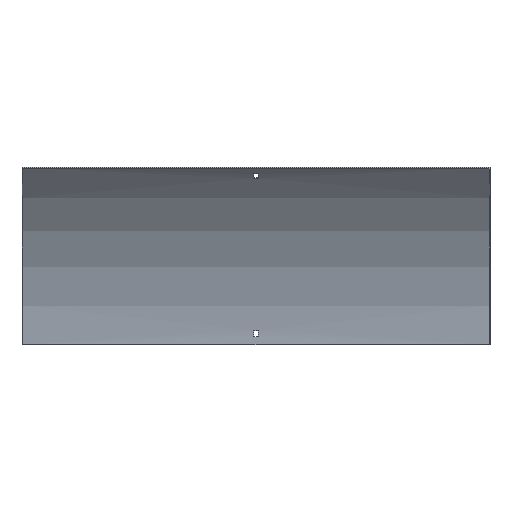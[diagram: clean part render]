
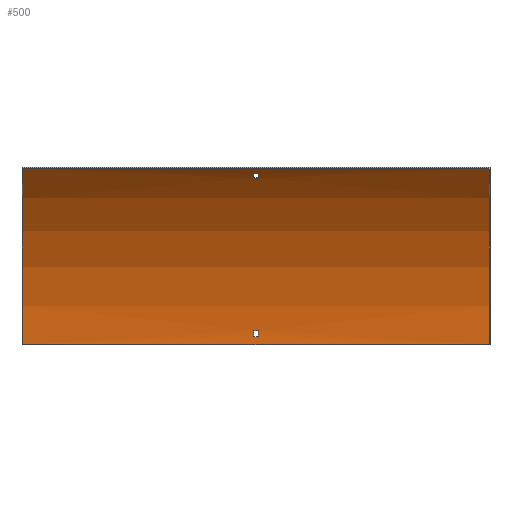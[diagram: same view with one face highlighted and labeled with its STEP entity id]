
A CAD part, front view. The second image highlights one B-rep face of the part: STEP entity #500.
In plain terms, the highlighted cylindrical face has radius 375 mm (diameter 750 mm), a partial arc.
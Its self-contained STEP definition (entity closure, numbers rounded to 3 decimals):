
#2 = AXIS2_PLACEMENT_3D ( 'NONE', #170, #581, #180 ) ;
#11 = DIRECTION ( 'NONE',  ( 0., 0., 1. ) ) ;
#27 = LINE ( 'NONE', #227, #446 ) ;
#28 = AXIS2_PLACEMENT_3D ( 'NONE', #434, #253, #50 ) ;
#33 = LINE ( 'NONE', #592, #447 ) ;
#35 = DIRECTION ( 'NONE',  ( 1., 0., 0. ) ) ;
#45 = CARTESIAN_POINT ( 'NONE',  ( -350., -1.5, 0. ) ) ;
#50 = DIRECTION ( 'NONE',  ( 0., 0., -1. ) ) ;
#51 = FACE_BOUND ( 'NONE', #429, .T. ) ;
#59 = VERTEX_POINT ( 'NONE', #45 ) ;
#74 = CARTESIAN_POINT ( 'NONE',  ( -3.25, -2.088, 21. ) ) ;
#75 = CIRCLE ( 'NONE', #353, 375. ) ;
#97 = CARTESIAN_POINT ( 'NONE',  ( 351.5, -96.902, 249.9 ) ) ;
#105 = FACE_OUTER_BOUND ( 'NONE', #573, .T. ) ;
#106 = AXIS2_PLACEMENT_3D ( 'NONE', #123, #313, #495 ) ;
#112 = EDGE_CURVE ( 'NONE', #179, #607, #183, .T. ) ;
#115 = VECTOR ( 'NONE', #125, 1000. ) ;
#116 = CARTESIAN_POINT ( 'NONE',  ( 350., -111.335, 265.165 ) ) ;
#122 = DIRECTION ( 'NONE',  ( 0., 0., -1. ) ) ;
#123 = CARTESIAN_POINT ( 'NONE',  ( 3.25, -376.5, 0. ) ) ;
#125 = DIRECTION ( 'NONE',  ( -1., 0., 0. ) ) ;
#146 = ORIENTED_EDGE ( 'NONE', *, *, #443, .T. ) ;
#151 = CIRCLE ( 'NONE', #2, 375. ) ;
#156 = VERTEX_POINT ( 'NONE', #480 ) ;
#157 = CARTESIAN_POINT ( 'NONE',  ( 350., -1.5, 0. ) ) ;
#159 = ORIENTED_EDGE ( 'NONE', *, *, #473, .T. ) ;
#170 = CARTESIAN_POINT ( 'NONE',  ( -3.25, -376.5, 0. ) ) ;
#172 = EDGE_CURVE ( 'NONE', #420, #59, #571, .T. ) ;
#173 = CARTESIAN_POINT ( 'NONE',  ( 351.5, -102.985, 256.544 ) ) ;
#178 = DIRECTION ( 'NONE',  ( 0., 0., -1. ) ) ;
#179 = VERTEX_POINT ( 'NONE', #490 ) ;
#180 = DIRECTION ( 'NONE',  ( 0., 0., 1. ) ) ;
#183 = CIRCLE ( 'NONE', #28, 375. ) ;
#185 = VERTEX_POINT ( 'NONE', #74 ) ;
#187 = DIRECTION ( 'NONE',  ( -1., 0., 0. ) ) ;
#196 = VERTEX_POINT ( 'NONE', #116 ) ;
#198 = EDGE_CURVE ( 'NONE', #185, #238, #151, .T. ) ;
#219 = VECTOR ( 'NONE', #585, 1000. ) ;
#226 = EDGE_CURVE ( 'NONE', #238, #156, #33, .T. ) ;
#227 = CARTESIAN_POINT ( 'NONE',  ( 351.5, -2.088, 21. ) ) ;
#230 = AXIS2_PLACEMENT_3D ( 'NONE', #537, #35, #178 ) ;
#238 = VERTEX_POINT ( 'NONE', #412 ) ;
#246 = EDGE_CURVE ( 'NONE', #413, #498, #251, .T. ) ;
#248 = CYLINDRICAL_SURFACE ( 'NONE', #329, 375. ) ;
#251 = CIRCLE ( 'NONE', #382, 375. ) ;
#253 = DIRECTION ( 'NONE',  ( 1., 0., 0. ) ) ;
#254 = EDGE_CURVE ( 'NONE', #316, #185, #27, .T. ) ;
#255 = ORIENTED_EDGE ( 'NONE', *, *, #198, .F. ) ;
#264 = CARTESIAN_POINT ( 'NONE',  ( 3.25, -376.5, 0. ) ) ;
#265 = DIRECTION ( 'NONE',  ( 1., 0., 0. ) ) ;
#287 = EDGE_CURVE ( 'NONE', #156, #316, #317, .T. ) ;
#289 = DIRECTION ( 'NONE',  ( -1., 0., 0. ) ) ;
#305 = EDGE_CURVE ( 'NONE', #196, #556, #487, .T. ) ;
#306 = LINE ( 'NONE', #173, #507 ) ;
#311 = ORIENTED_EDGE ( 'NONE', *, *, #287, .F. ) ;
#313 = DIRECTION ( 'NONE',  ( 1., 0., 0. ) ) ;
#316 = VERTEX_POINT ( 'NONE', #540 ) ;
#317 = CIRCLE ( 'NONE', #106, 375. ) ;
#318 = DIRECTION ( 'NONE',  ( -1., 0., 0. ) ) ;
#320 = ORIENTED_EDGE ( 'NONE', *, *, #112, .T. ) ;
#324 = LINE ( 'NONE', #97, #496 ) ;
#325 = ORIENTED_EDGE ( 'NONE', *, *, #254, .F. ) ;
#329 = AXIS2_PLACEMENT_3D ( 'NONE', #433, #187, #11 ) ;
#330 = EDGE_LOOP ( 'NONE', ( #255, #325, #311, #376 ) ) ;
#335 = EDGE_CURVE ( 'NONE', #59, #556, #75, .T. ) ;
#337 = CIRCLE ( 'NONE', #230, 375. ) ;
#348 = EDGE_CURVE ( 'NONE', #420, #196, #337, .T. ) ;
#349 = CARTESIAN_POINT ( 'NONE',  ( 350., -1.5, 0. ) ) ;
#353 = AXIS2_PLACEMENT_3D ( 'NONE', #395, #265, #122 ) ;
#356 = DIRECTION ( 'NONE',  ( 1., 0., 0. ) ) ;
#360 = CARTESIAN_POINT ( 'NONE',  ( 3.25, -102.985, 256.544 ) ) ;
#365 = DIRECTION ( 'NONE',  ( 1., 0., 0. ) ) ;
#376 = ORIENTED_EDGE ( 'NONE', *, *, #226, .F. ) ;
#378 = ORIENTED_EDGE ( 'NONE', *, *, #246, .T. ) ;
#382 = AXIS2_PLACEMENT_3D ( 'NONE', #264, #452, #594 ) ;
#395 = CARTESIAN_POINT ( 'NONE',  ( -350., -376.5, 0. ) ) ;
#408 = CARTESIAN_POINT ( 'NONE',  ( 350., -111.335, 265.165 ) ) ;
#412 = CARTESIAN_POINT ( 'NONE',  ( -3.25, -1.692, 12. ) ) ;
#413 = VERTEX_POINT ( 'NONE', #360 ) ;
#420 = VERTEX_POINT ( 'NONE', #349 ) ;
#429 = EDGE_LOOP ( 'NONE', ( #159, #320, #146, #378 ) ) ;
#433 = CARTESIAN_POINT ( 'NONE',  ( 351.5, -376.5, 0. ) ) ;
#434 = CARTESIAN_POINT ( 'NONE',  ( -3.25, -376.5, 0. ) ) ;
#437 = CARTESIAN_POINT ( 'NONE',  ( -350., -111.335, 265.165 ) ) ;
#443 = EDGE_CURVE ( 'NONE', #607, #413, #306, .T. ) ;
#446 = VECTOR ( 'NONE', #318, 1000. ) ;
#447 = VECTOR ( 'NONE', #365, 1000. ) ;
#452 = DIRECTION ( 'NONE',  ( -1., 0., 0. ) ) ;
#470 = ORIENTED_EDGE ( 'NONE', *, *, #335, .F. ) ;
#473 = EDGE_CURVE ( 'NONE', #498, #179, #324, .T. ) ;
#474 = CARTESIAN_POINT ( 'NONE',  ( 3.25, -96.902, 249.9 ) ) ;
#480 = CARTESIAN_POINT ( 'NONE',  ( 3.25, -1.692, 12. ) ) ;
#487 = LINE ( 'NONE', #408, #115 ) ;
#490 = CARTESIAN_POINT ( 'NONE',  ( -3.25, -96.902, 249.9 ) ) ;
#495 = DIRECTION ( 'NONE',  ( 0., 0., -1. ) ) ;
#496 = VECTOR ( 'NONE', #289, 1000. ) ;
#498 = VERTEX_POINT ( 'NONE', #474 ) ;
#500 = ADVANCED_FACE ( 'NONE', ( #596, #105, #51 ), #248, .F. ) ;
#507 = VECTOR ( 'NONE', #356, 1000. ) ;
#510 = ORIENTED_EDGE ( 'NONE', *, *, #348, .T. ) ;
#520 = ORIENTED_EDGE ( 'NONE', *, *, #172, .F. ) ;
#537 = CARTESIAN_POINT ( 'NONE',  ( 350., -376.5, 0. ) ) ;
#540 = CARTESIAN_POINT ( 'NONE',  ( 3.25, -2.088, 21. ) ) ;
#556 = VERTEX_POINT ( 'NONE', #437 ) ;
#558 = ORIENTED_EDGE ( 'NONE', *, *, #305, .T. ) ;
#571 = LINE ( 'NONE', #157, #219 ) ;
#573 = EDGE_LOOP ( 'NONE', ( #470, #520, #510, #558 ) ) ;
#579 = CARTESIAN_POINT ( 'NONE',  ( -3.25, -102.985, 256.544 ) ) ;
#581 = DIRECTION ( 'NONE',  ( -1., 0., 0. ) ) ;
#585 = DIRECTION ( 'NONE',  ( -1., 0., 0. ) ) ;
#592 = CARTESIAN_POINT ( 'NONE',  ( 351.5, -1.692, 12. ) ) ;
#594 = DIRECTION ( 'NONE',  ( 0., 0., 1. ) ) ;
#596 = FACE_BOUND ( 'NONE', #330, .T. ) ;
#607 = VERTEX_POINT ( 'NONE', #579 ) ;
